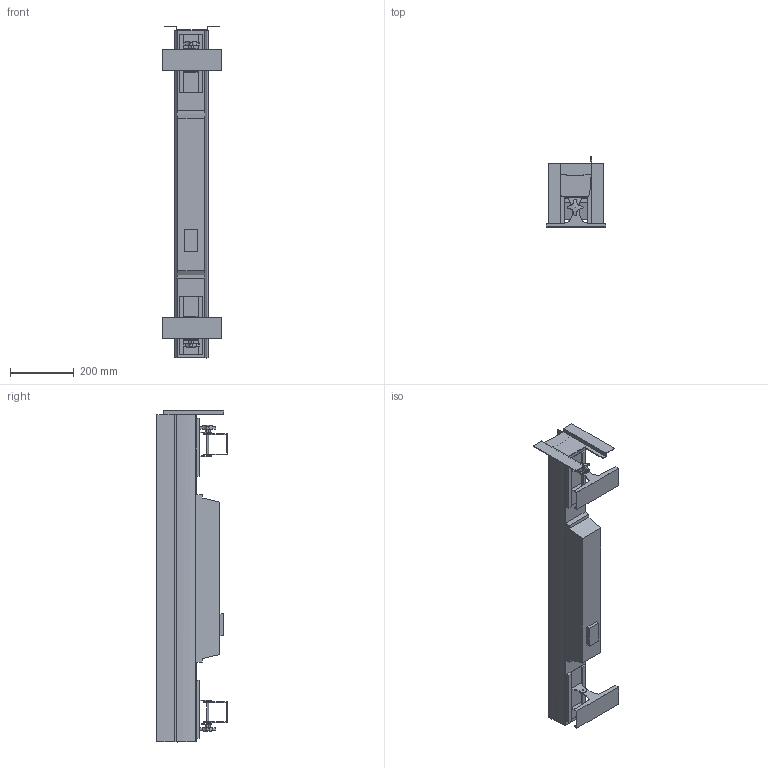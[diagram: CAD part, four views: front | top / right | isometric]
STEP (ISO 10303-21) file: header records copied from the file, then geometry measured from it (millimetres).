
FILE_DESCRIPTION(/* description */ (''),/* implementation_level */ '2;1');
FILE_NAME(/* name */ 'D:/dgooch/Documents/CADENG/PRO/Colorado Batten Q15/0/COLORado Batten Q15.step',/* time_stamp */ '2020-01-17T11:13:37-05:00',/* author */ (''),/* organization */ (''),/* preprocessor_version */ 'ST-DEVELOPER v18',/* originating_system */ 'Autodesk Translation Framework v8.12.0.6',/* authorisation */ '');
FILE_SCHEMA (('AUTOMOTIVE_DESIGN { 1 0 10303 214 3 1 1 }'));
Length unit declared in the file: millimetre
Products named in the file (14): COLORadoBattenQ15-V2; Bracket; ZHIJIADANBAN (1); ZHIJIA02_ASM (1); LED317-25 (1); LED317-26 (1); SS361SHOUNIELUOSI (1); Bracket(Mirror); ZHIJIADANBAN (1) (1); ZHIJIA02_ASM (1) (1); LED317-25 (1) (1); LED317-26 (1) (1); SS361SHOUNIELUOSI (1) (1); Main
Assembly tree (13 placements, depth 5):
  COLORadoBattenQ15-V2
    Bracket
      ZHIJIADANBAN (1)
      ZHIJIA02_ASM (1)
        LED317-25 (1)
        LED317-26 (1)
        SS361SHOUNIELUOSI (1)
      Bracket(Mirror)
        ZHIJIADANBAN (1) (1)
        ZHIJIA02_ASM (1) (1)
          LED317-25 (1) (1)
          LED317-26 (1) (1)
          SS361SHOUNIELUOSI (1) (1)
    Main
Bounding box: 185 x 222.56 x 1039.7 mm (x, y, z)
Volume: 10143722.8 mm3; surface area: 733276.4 mm2
Topology: 3 solids, 3 shells, 221 faces, 616 edges, 410 vertices
Faces by surface type: plane 186, cylinder 33, sphere 2
Full cylindrical faces by diameter (mm): 6 x6
Entity records: 7514 total; most frequent: CARTESIAN_POINT 1392, ORIENTED_EDGE 1228, DIRECTION 1181, EDGE_CURVE 614, LINE 527, VECTOR 527, VERTEX_POINT 410, AXIS2_PLACEMENT_3D 327
